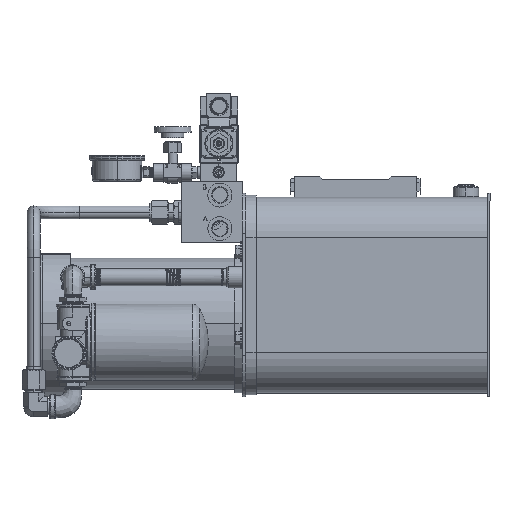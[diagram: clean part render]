
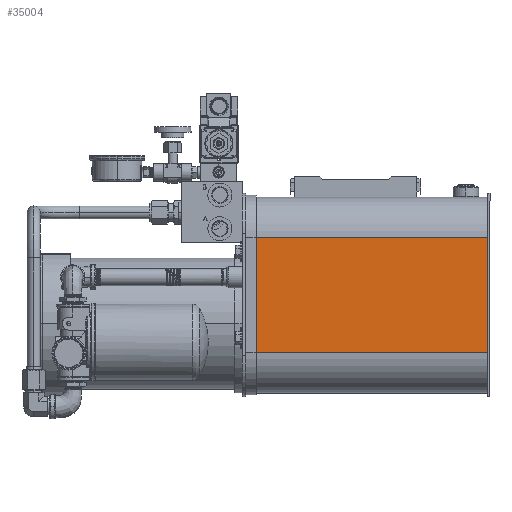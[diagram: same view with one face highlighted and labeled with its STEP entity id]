
A CAD part, top view. The second image highlights one B-rep face of the part: STEP entity #35004.
In plain terms, the highlighted planar face has unit normal (0, 0, 1).
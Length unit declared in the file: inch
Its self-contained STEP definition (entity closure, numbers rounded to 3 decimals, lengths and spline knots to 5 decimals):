
#8263 = ORIENTED_EDGE ( 'NONE', *, *, #182920, .T. ) ;
#10453 = CARTESIAN_POINT ( 'NONE',  ( 7.74725, 5.52363, 18.13367 ) ) ;
#11088 = DIRECTION ( 'NONE',  ( 0., 1., 0. ) ) ;
#29315 = ORIENTED_EDGE ( 'NONE', *, *, #75505, .F. ) ;
#35004 = ADVANCED_FACE ( 'NONE', ( #154082 ), #47883, .T. ) ;
#35488 = CARTESIAN_POINT ( 'NONE',  ( 7.74725, 13.33613, 18.13367 ) ) ;
#42026 = CARTESIAN_POINT ( 'NONE',  ( -4.00815, 5.52363, 18.13367 ) ) ;
#47883 = PLANE ( 'NONE',  #137974 ) ;
#49236 = VERTEX_POINT ( 'NONE', #102859 ) ;
#54869 = VECTOR ( 'NONE', #116945, 39.37008 ) ;
#56319 = EDGE_CURVE ( 'NONE', #134359, #49236, #111575, .T. ) ;
#66238 = CARTESIAN_POINT ( 'NONE',  ( -4.00815, 5.52363, 18.13367 ) ) ;
#69846 = EDGE_CURVE ( 'NONE', #126536, #159213, #109688, .T. ) ;
#70151 = ORIENTED_EDGE ( 'NONE', *, *, #56319, .F. ) ;
#71613 = CARTESIAN_POINT ( 'NONE',  ( -4.13315, 11.14863, 18.13367 ) ) ;
#75453 = ORIENTED_EDGE ( 'NONE', *, *, #69846, .T. ) ;
#75505 = EDGE_CURVE ( 'NONE', #49236, #159213, #162465, .T. ) ;
#77156 = EDGE_LOOP ( 'NONE', ( #29315, #70151, #8263, #75453 ) ) ;
#91652 = VECTOR ( 'NONE', #95250, 39.37008 ) ;
#95250 = DIRECTION ( 'NONE',  ( 0., 1., 0. ) ) ;
#97945 = CARTESIAN_POINT ( 'NONE',  ( 7.74725, 11.14863, 18.13367 ) ) ;
#102859 = CARTESIAN_POINT ( 'NONE',  ( -4.00815, 11.14863, 18.13367 ) ) ;
#109688 = LINE ( 'NONE', #35488, #190703 ) ;
#110479 = CARTESIAN_POINT ( 'NONE',  ( -4.13315, 5.52363, 18.13367 ) ) ;
#111575 = LINE ( 'NONE', #66238, #91652 ) ;
#116945 = DIRECTION ( 'NONE',  ( 1., 0., 0. ) ) ;
#126536 = VERTEX_POINT ( 'NONE', #10453 ) ;
#134359 = VERTEX_POINT ( 'NONE', #42026 ) ;
#137439 = VECTOR ( 'NONE', #160558, 39.37008 ) ;
#137974 = AXIS2_PLACEMENT_3D ( 'NONE', #110479, #172365, #11088 ) ;
#154082 = FACE_OUTER_BOUND ( 'NONE', #77156, .T. ) ;
#155168 = DIRECTION ( 'NONE',  ( 0., 1., 0. ) ) ;
#159213 = VERTEX_POINT ( 'NONE', #97945 ) ;
#160558 = DIRECTION ( 'NONE',  ( 1., 0., 0. ) ) ;
#162465 = LINE ( 'NONE', #71613, #137439 ) ;
#172365 = DIRECTION ( 'NONE',  ( 0., 0., 1. ) ) ;
#173133 = LINE ( 'NONE', #174073, #54869 ) ;
#174073 = CARTESIAN_POINT ( 'NONE',  ( -4.13315, 5.52363, 18.13367 ) ) ;
#182920 = EDGE_CURVE ( 'NONE', #134359, #126536, #173133, .T. ) ;
#190703 = VECTOR ( 'NONE', #155168, 39.37008 ) ;
